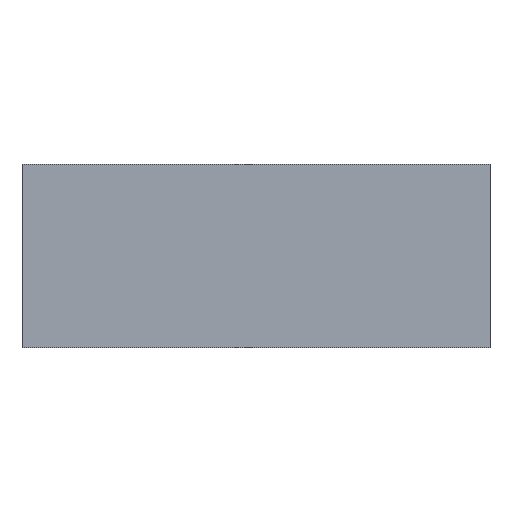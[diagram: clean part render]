
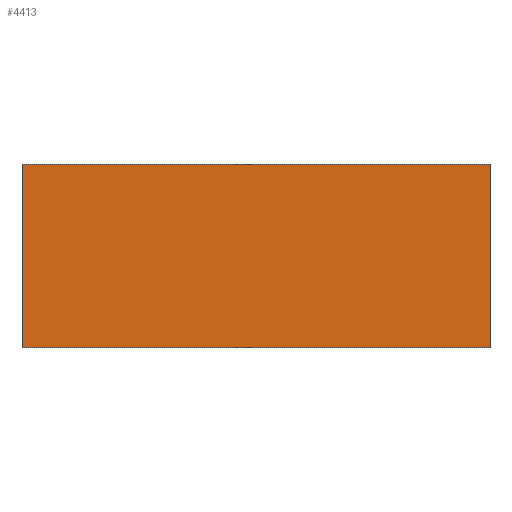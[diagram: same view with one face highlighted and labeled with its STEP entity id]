
A CAD part, top view. The second image highlights one B-rep face of the part: STEP entity #4413.
In plain terms, the highlighted planar face has unit normal (0, 0, 1).
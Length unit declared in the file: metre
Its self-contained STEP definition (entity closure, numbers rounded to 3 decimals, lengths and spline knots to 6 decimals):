
#434=LINE('',#8983,#816);
#435=LINE('',#8986,#817);
#436=LINE('',#8988,#818);
#437=LINE('',#8990,#819);
#816=VECTOR('',#7009,1.);
#817=VECTOR('',#7010,1.);
#818=VECTOR('',#7011,1.);
#819=VECTOR('',#7012,1.);
#2029=ORIENTED_EDGE('',*,*,#2819,.F.);
#2030=ORIENTED_EDGE('',*,*,#2820,.F.);
#2031=ORIENTED_EDGE('',*,*,#2821,.F.);
#2032=ORIENTED_EDGE('',*,*,#2822,.F.);
#2819=EDGE_CURVE('',#3223,#3224,#434,.T.);
#2820=EDGE_CURVE('',#3225,#3223,#435,.T.);
#2821=EDGE_CURVE('',#3226,#3225,#436,.T.);
#2822=EDGE_CURVE('',#3224,#3226,#437,.T.);
#3223=VERTEX_POINT('',#8984);
#3224=VERTEX_POINT('',#8985);
#3225=VERTEX_POINT('',#8987);
#3226=VERTEX_POINT('',#8989);
#3559=EDGE_LOOP('',(#2029,#2030,#2031,#2032));
#3808=FACE_BOUND('',#3559,.T.);
#3953=PLANE('',#6085);
#4413=ADVANCED_FACE('',(#3808),#3953,.F.);
#6085=AXIS2_PLACEMENT_3D('',#8982,#7007,#7008);
#7007=DIRECTION('',(0.,0.,-1.));
#7008=DIRECTION('',(-1.,0.,0.));
#7009=DIRECTION('',(0.,-1.,0.));
#7010=DIRECTION('',(1.,0.,0.));
#7011=DIRECTION('',(0.,1.,0.));
#7012=DIRECTION('',(-1.,0.,0.));
#8982=CARTESIAN_POINT('',(-0.091228,-0.011972,0.00745));
#8983=CARTESIAN_POINT('',(-0.088678,-0.012972,0.00745));
#8984=CARTESIAN_POINT('',(-0.088678,-0.010972,0.00745));
#8985=CARTESIAN_POINT('',(-0.088678,-0.012972,0.00745));
#8986=CARTESIAN_POINT('',(-0.093778,-0.010972,0.00745));
#8987=CARTESIAN_POINT('',(-0.093778,-0.010972,0.00745));
#8988=CARTESIAN_POINT('',(-0.093778,-0.012972,0.00745));
#8989=CARTESIAN_POINT('',(-0.093778,-0.012972,0.00745));
#8990=CARTESIAN_POINT('',(-0.093778,-0.012972,0.00745));
